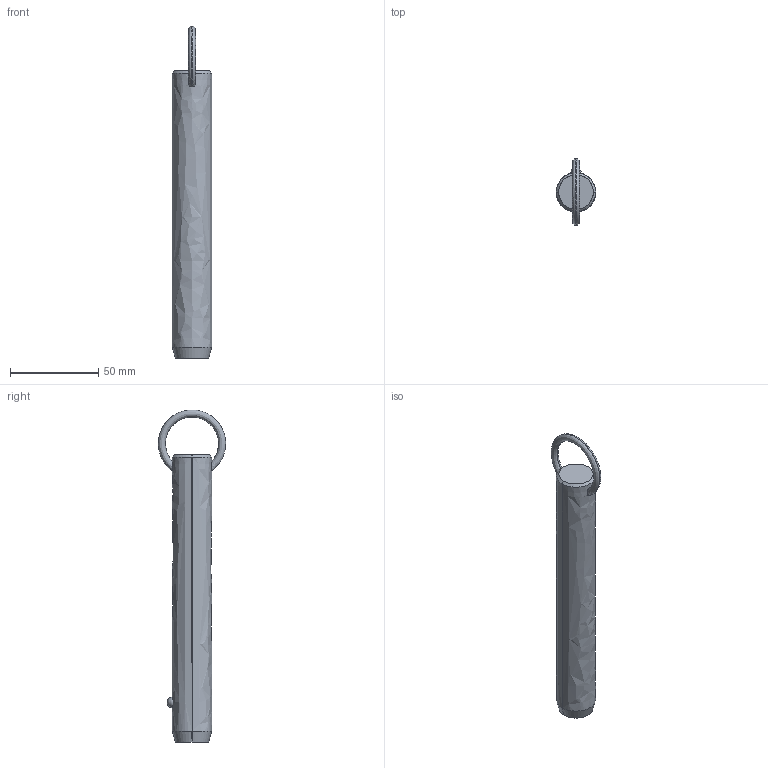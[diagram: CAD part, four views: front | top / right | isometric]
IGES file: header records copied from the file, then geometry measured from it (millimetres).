
Start section: SolidWorks IGES file using analytic representation for surfaces
Global section: file name: C:\Users\liam_\OneDrive\Documents\WORK\Work for WixRoyd\Job Files\J-00019 - Matt Davis CAD Checking\04. CAD Drawings\automotion20190605\P1250.2_v2\P1250.2_v2_20190729_IGES\P1250.087-490.igs; native system: SolidWorks 2017; preprocessor: SolidWorks 2017; author: liam_; date: 190730.001322; units: millimetre
Bounding box: 22.2 x 38.07 x 187.99 mm (x, y, z)
Surface area: 12984 mm2 (no closed solid volume)
Topology: 0 solids, 0 shells, 12 faces, 302 edges, 300 vertices
Faces by surface type: revolution 8, bspline 4
